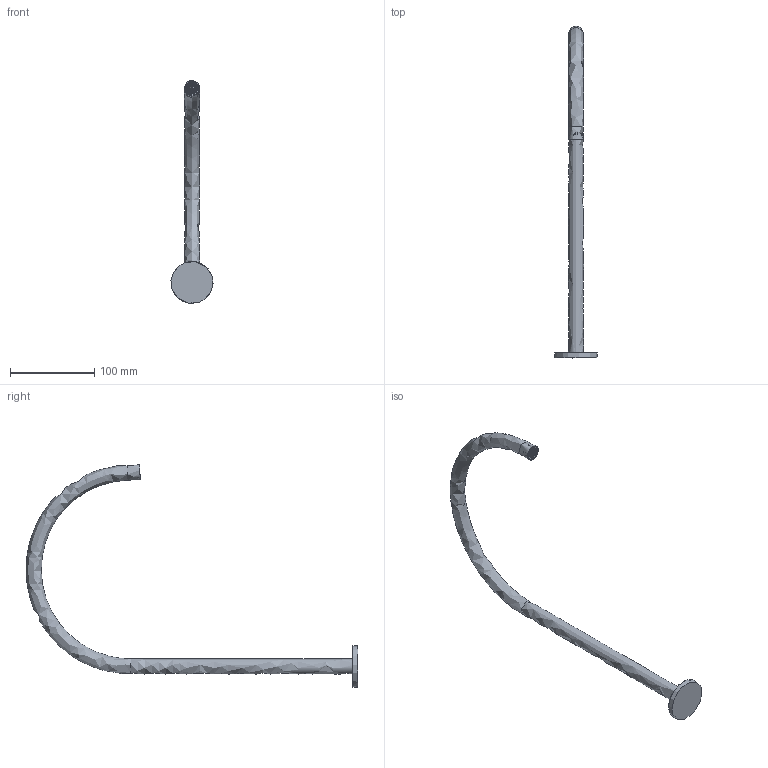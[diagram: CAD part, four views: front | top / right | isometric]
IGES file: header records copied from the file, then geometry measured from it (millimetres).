
Global section: file name: PR52CM212; native system: Autodesk Inventor 2017; preprocessor: unknown; author: PIZZERA; date: 20210406.164351; units: millimetre
Bounding box: 49.85 x 393.48 x 264.39 mm (x, y, z)
Volume: 178064.3 mm3; surface area: 41810.1 mm2
Topology: 1 solids, 1 shells, 664 faces, 1677 edges, 1008 vertices
Faces by surface type: bspline 664
